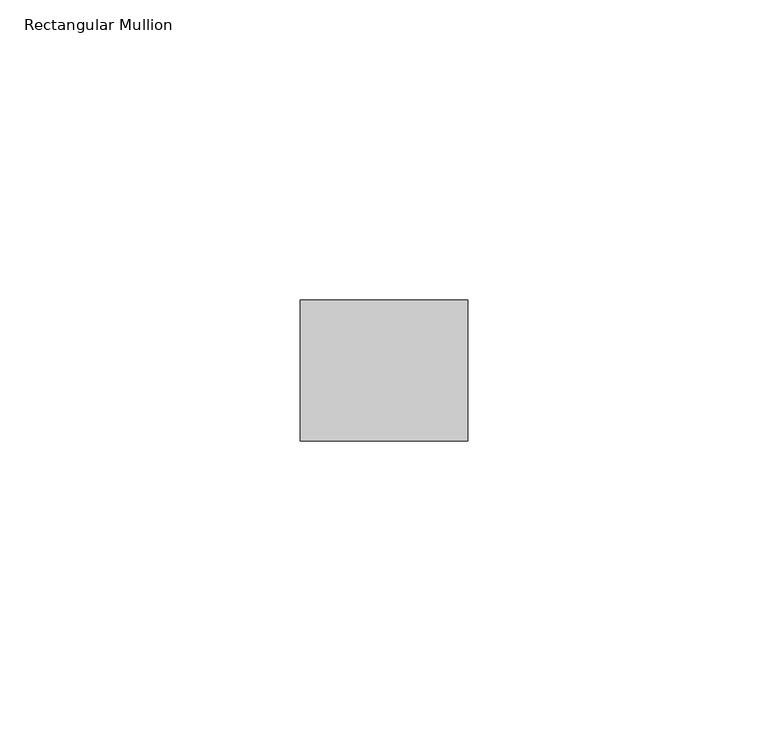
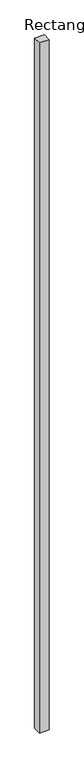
"""IFC4 building model written with IfcOpenShell, lengths in millimetres: member geometry, Rectangular Mullion : Lite Scale Glasing - Base Trim."""

from ifc_helpers import new_model, si_unit, frame, origin, place, context, project, spatial, polyline, outline, extrude, source, transform, mapped, element, save


def rectangular_mullion_d54b9081(model_context):
    return source(origin(), model_context, "Body", "SweptSolid", [
        extrude(outline(polyline([(0.0, -11.7474999), (-27.94, -11.7474999), (-27.94, 11.7474999), (0.0, 11.7474999), (0.0, -11.7474999)])), frame((0.0, 0.0, -2082.8), z_axis=(0.0, 0.0, 1.0), x_axis=(1.0, 0.0, 0.0)), (0.0, 0.0, 1.0), 2082.8),
    ])


if __name__ == "__main__":
    model = new_model("IFC4")
    model_context = context("Model", 3, world=origin())
    ifc_project = project(units=[si_unit("LENGTHUNIT", "METRE", prefix="MILLI")], contexts=[model_context])
    site = spatial("IfcSite", under=ifc_project)
    building = spatial("IfcBuilding", under=site)
    placement = place(None, origin())
    rectangular_mullion_shape = rectangular_mullion_d54b9081(model_context)
    element("IfcMember", 1, ObjectType="Rectangular Mullion : Lite Scale Glasing - Base Trim", at=placement, inside=building, context=model_context, shape_type="MappedRepresentation", body=[
        mapped(rectangular_mullion_shape, transform((0.0, 0.0, 0.0), x_axis=(1.0, 0.0, 0.0), y_axis=(0.0, 1.0, 0.0), z_axis=(0.0, 0.0, 1.0))),
    ])
    save(model, "model.ifc")
